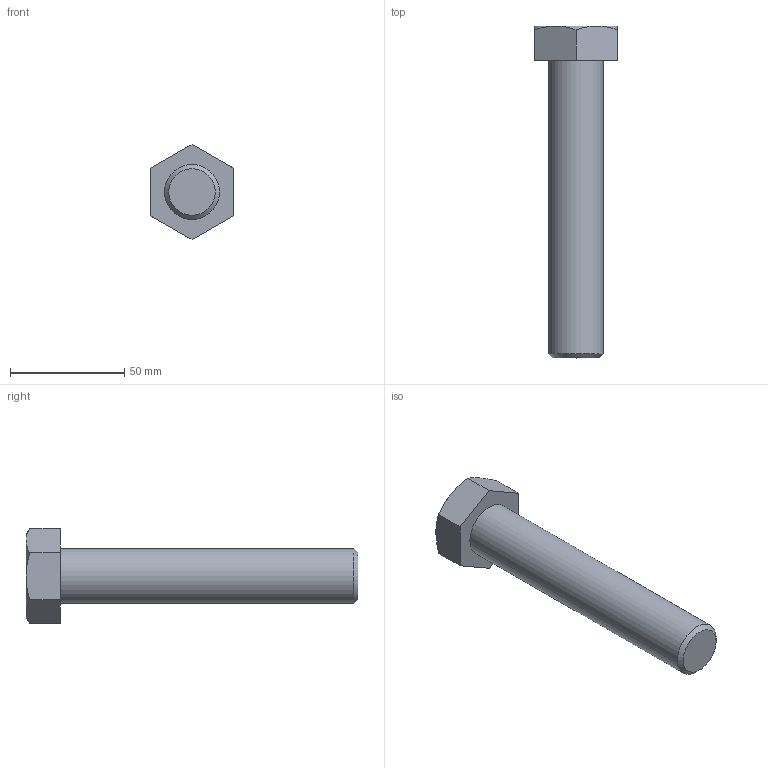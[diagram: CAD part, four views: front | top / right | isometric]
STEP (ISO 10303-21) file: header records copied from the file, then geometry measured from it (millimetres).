
FILE_DESCRIPTION(/* description */ (''),/* implementation_level */ '2;1');
FILE_NAME(/* name */ 'C:\Users\unitec\Documents\Inventor\各種小物\JIS\JIS B 1180 六角ボルト 等級C\hbc24\M24x130.stp',/* time_stamp */ '2015-02-13T14:54:29+09:00',/* author */ ('unitec'),/* organization */ (''),/* preprocessor_version */ 'ST-DEVELOPER v15.2',/* originating_system */ 'Autodesk Inventor 2014',/* authorisation */ '');
FILE_SCHEMA (('AUTOMOTIVE_DESIGN { 1 0 10303 214 3 1 1 }'));
Length unit declared in the file: millimetre
Products named in the file (1): M24x130
Bounding box: 36 x 145 x 41.57 mm (x, y, z)
Volume: 75474.4 mm3; surface area: 13778.8 mm2
Topology: 1 solids, 1 shells, 17 faces, 35 edges, 21 vertices
Faces by surface type: plane 9, cone 7, cylinder 1
Full cylindrical faces by diameter (mm): 24 x1
Entity records: 441 total; most frequent: CARTESIAN_POINT 96, ORIENTED_EDGE 66, DIRECTION 66, EDGE_CURVE 33, AXIS2_PLACEMENT_3D 27, VERTEX_POINT 21, EDGE_LOOP 20, ADVANCED_FACE 17
